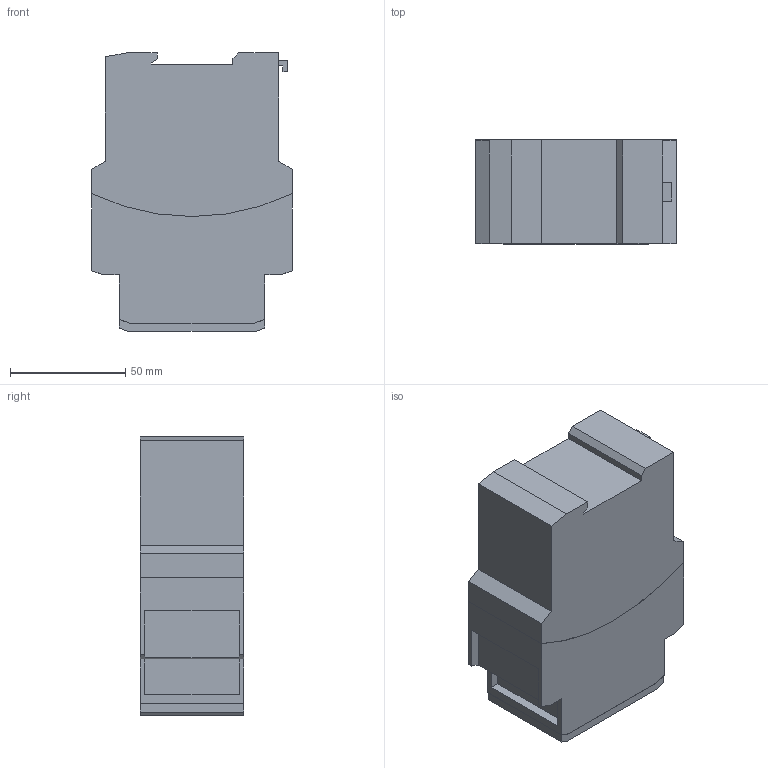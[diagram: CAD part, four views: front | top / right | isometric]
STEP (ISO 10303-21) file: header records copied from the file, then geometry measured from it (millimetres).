
FILE_DESCRIPTION((''),'2;1');
FILE_NAME('2002421','2017-03-23T',('merz'),(''),'PRO/ENGINEER BY PARAMETRIC TECHNOLOGY CORPORATION, 2016100','PRO/ENGINEER BY PARAMETRIC TECHNOLOGY CORPORATION, 2016100','');
FILE_SCHEMA(('AUTOMOTIVE_DESIGN { 1 0 10303 214 1 1 1 1 }'));
Length unit declared in the file: millimetre
Products named in the file (1): 2002421
Bounding box: 87 x 45 x 120.6 mm (x, y, z)
Volume: 397933.2 mm3; surface area: 39246.1 mm2
Topology: 1 solids, 1 shells, 104 faces, 289 edges, 198 vertices
Faces by surface type: plane 98, cylinder 6
Entity records: 4412 total; most frequent: CARTESIAN_POINT 584, ORIENTED_EDGE 568, DIRECTION 511, PRESENTATION_STYLE_ASSIGNMENT 295, STYLED_ITEM 290, CURVE_STYLE 289, EDGE_CURVE 284, VECTOR 277
